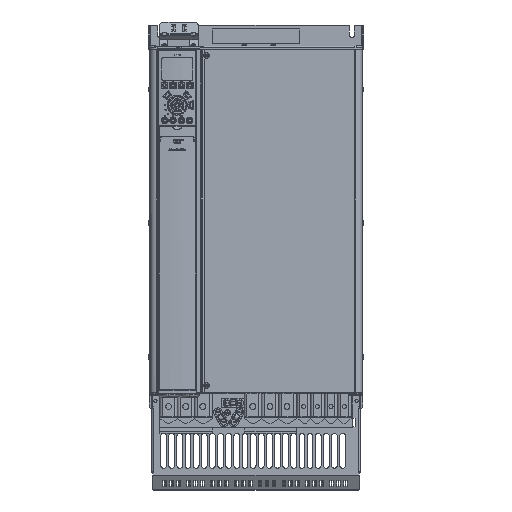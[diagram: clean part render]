
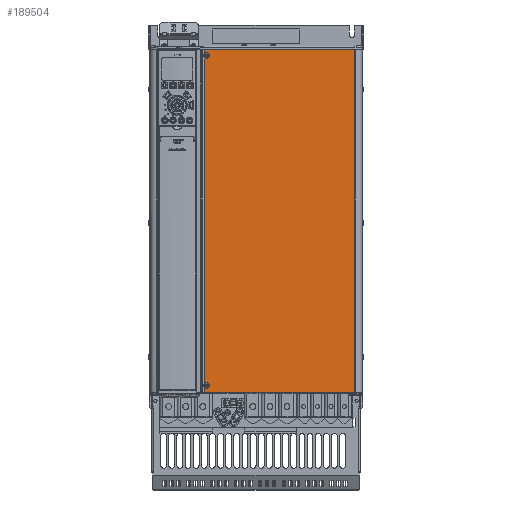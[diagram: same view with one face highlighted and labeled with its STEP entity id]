
A CAD part, top view. The second image highlights one B-rep face of the part: STEP entity #189504.
In plain terms, the highlighted planar face has unit normal (0, 0, 1).
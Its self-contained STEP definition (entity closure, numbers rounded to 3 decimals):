
#21256=DIRECTION('',(1.,0.,0.));
#21257=VECTOR('',#21256,257.671);
#21258=CARTESIAN_POINT('',(-88.56,293.55,325.8));
#21259=LINE('',#21258,#21257);
#43043=DIRECTION('',(1.,0.,0.));
#43044=VECTOR('',#43043,250.452);
#43045=CARTESIAN_POINT('',(-88.56,-295.5,325.8));
#43046=LINE('',#43045,#43044);
#43052=DIRECTION('',(1.,0.,0.));
#43053=VECTOR('',#43052,1.003);
#43054=CARTESIAN_POINT('',(168.108,-295.5,325.8));
#43055=LINE('',#43054,#43053);
#43108=CARTESIAN_POINT('',(-88.56,-281.231,325.8));
#43332=CARTESIAN_POINT('',(-88.56,-286.569,325.8));
#43338=CARTESIAN_POINT('',(-88.56,286.569,325.8));
#43562=CARTESIAN_POINT('',(-88.56,281.231,325.8));
#43564=CARTESIAN_POINT('',(-85.,-283.9,325.8));
#43565=DIRECTION('',(0.,0.,-1.));
#43566=DIRECTION('',(-0.8,0.6,0.));
#43567=AXIS2_PLACEMENT_3D('',#43564,#43565,#43566);
#43579=DIRECTION('',(0.,-1.,0.));
#43580=VECTOR('',#43579,562.461);
#43581=CARTESIAN_POINT('',(-88.56,281.231,325.8));
#43582=LINE('',#43581,#43580);
#43583=CARTESIAN_POINT('',(-85.,286.1,325.8));
#43584=DIRECTION('',(0.,0.,1.));
#43585=DIRECTION('',(0.49,0.871,0.));
#43586=AXIS2_PLACEMENT_3D('',#43583,#43584,#43585);
#43588=CARTESIAN_POINT('',(-85.,283.9,325.8));
#43589=DIRECTION('',(0.,0.,-1.));
#43590=DIRECTION('',(-0.8,0.6,0.));
#43591=AXIS2_PLACEMENT_3D('',#43588,#43589,#43590);
#43593=DIRECTION('',(0.,-1.,0.));
#43594=VECTOR('',#43593,6.981);
#43595=CARTESIAN_POINT('',(-88.56,293.55,325.8));
#43596=LINE('',#43595,#43594);
#43597=CARTESIAN_POINT('',(168.108,-295.5,325.8));
#43598=CARTESIAN_POINT('',(168.084,-295.498,325.8));
#43599=CARTESIAN_POINT('',(168.036,-295.493,325.8));
#43600=CARTESIAN_POINT('',(167.965,-295.486,325.8));
#43601=CARTESIAN_POINT('',(167.894,-295.481,325.8));
#43602=CARTESIAN_POINT('',(167.824,-295.475,325.8));
#43603=CARTESIAN_POINT('',(167.754,-295.471,325.8));
#43604=CARTESIAN_POINT('',(167.685,-295.467,325.8));
#43605=CARTESIAN_POINT('',(167.616,-295.463,325.8));
#43606=CARTESIAN_POINT('',(167.548,-295.46,325.8));
#43607=CARTESIAN_POINT('',(167.48,-295.458,325.8));
#43608=CARTESIAN_POINT('',(167.412,-295.455,325.8));
#43609=CARTESIAN_POINT('',(167.345,-295.454,325.8));
#43610=CARTESIAN_POINT('',(167.277,-295.452,325.8));
#43611=CARTESIAN_POINT('',(167.211,-295.451,325.8));
#43612=CARTESIAN_POINT('',(167.144,-295.451,325.8));
#43613=CARTESIAN_POINT('',(167.077,-295.45,325.8));
#43614=CARTESIAN_POINT('',(167.033,-295.45,325.8));
#43615=CARTESIAN_POINT('',(167.011,-295.45,325.8));
#43617=DIRECTION('',(-1.,0.,0.));
#43618=VECTOR('',#43617,4.022);
#43619=CARTESIAN_POINT('',(167.011,-295.45,325.8));
#43620=LINE('',#43619,#43618);
#43621=CARTESIAN_POINT('',(162.989,-295.45,325.8));
#43622=CARTESIAN_POINT('',(162.967,-295.45,325.8));
#43623=CARTESIAN_POINT('',(162.923,-295.45,325.8));
#43624=CARTESIAN_POINT('',(162.856,-295.451,325.8));
#43625=CARTESIAN_POINT('',(162.789,-295.451,325.8));
#43626=CARTESIAN_POINT('',(162.722,-295.452,325.8));
#43627=CARTESIAN_POINT('',(162.655,-295.454,325.8));
#43628=CARTESIAN_POINT('',(162.588,-295.455,325.8));
#43629=CARTESIAN_POINT('',(162.52,-295.458,325.8));
#43630=CARTESIAN_POINT('',(162.452,-295.46,325.8));
#43631=CARTESIAN_POINT('',(162.384,-295.463,325.8));
#43632=CARTESIAN_POINT('',(162.315,-295.467,325.8));
#43633=CARTESIAN_POINT('',(162.246,-295.471,325.8));
#43634=CARTESIAN_POINT('',(162.176,-295.475,325.8));
#43635=CARTESIAN_POINT('',(162.106,-295.481,325.8));
#43636=CARTESIAN_POINT('',(162.035,-295.486,325.8));
#43637=CARTESIAN_POINT('',(161.964,-295.493,325.8));
#43638=CARTESIAN_POINT('',(161.916,-295.498,325.8));
#43639=CARTESIAN_POINT('',(161.892,-295.5,325.8));
#43641=DIRECTION('',(0.,-1.,0.));
#43642=VECTOR('',#43641,8.931);
#43643=CARTESIAN_POINT('',(-88.56,-286.569,325.8));
#43644=LINE('',#43643,#43642);
#43645=CARTESIAN_POINT('',(-85.,-283.9,325.8));
#43646=DIRECTION('',(0.,0.,-1.));
#43647=DIRECTION('',(-0.265,-0.964,0.));
#43648=AXIS2_PLACEMENT_3D('',#43645,#43646,#43647);
#43650=CARTESIAN_POINT('',(-85.,-286.1,325.8));
#43651=DIRECTION('',(0.,0.,1.));
#43652=DIRECTION('',(-0.49,-0.871,0.));
#43653=AXIS2_PLACEMENT_3D('',#43650,#43651,#43652);
#43655=CARTESIAN_POINT('',(-85.,283.9,325.8));
#43656=DIRECTION('',(0.,0.,-1.));
#43657=DIRECTION('',(0.265,0.964,0.));
#43658=AXIS2_PLACEMENT_3D('',#43655,#43656,#43657);
#44868=DIRECTION('',(0.,-1.,0.));
#44869=VECTOR('',#44868,589.05);
#44870=CARTESIAN_POINT('',(169.111,293.55,325.8));
#44871=LINE('',#44870,#44869);
#121458=CARTESIAN_POINT('',(169.111,-295.5,325.8));
#121460=VERTEX_POINT('',#121458);
#121474=CARTESIAN_POINT('',(-88.56,-295.5,325.8));
#121475=VERTEX_POINT('',#121474);
#121477=CARTESIAN_POINT('',(169.111,293.55,325.8));
#121479=VERTEX_POINT('',#121477);
#121482=CARTESIAN_POINT('',(-88.56,293.55,325.8));
#121484=VERTEX_POINT('',#121482);
#129688=CARTESIAN_POINT('',(167.011,-295.45,325.8));
#129689=CARTESIAN_POINT('',(162.989,-295.45,325.8));
#129690=VERTEX_POINT('',#129688);
#129691=VERTEX_POINT('',#129689);
#129692=VERTEX_POINT('',#43639);
#129693=VERTEX_POINT('',#43597);
#135704=VERTEX_POINT('',#43338);
#135708=VERTEX_POINT('',#43562);
#135709=CARTESIAN_POINT('',(-86.177,288.191,325.8));
#135710=VERTEX_POINT('',#135709);
#135727=CARTESIAN_POINT('',(-83.823,288.191,325.8));
#135728=VERTEX_POINT('',#135727);
#135852=VERTEX_POINT('',#43108);
#135856=VERTEX_POINT('',#43332);
#135857=CARTESIAN_POINT('',(-86.177,-288.191,325.8));
#135858=VERTEX_POINT('',#135857);
#135873=CARTESIAN_POINT('',(-83.823,-288.191,325.8));
#135874=VERTEX_POINT('',#135873);
#189473=CARTESIAN_POINT('',(-88.56,295.5,325.8));
#189474=DIRECTION('',(0.,0.,-1.));
#189475=DIRECTION('',(1.,0.,0.));
#189476=AXIS2_PLACEMENT_3D('',#189473,#189474,#189475);
#189477=PLANE('',#189476);
#189478=ORIENTED_EDGE('',*,*,#189458,.F.);
#189479=ORIENTED_EDGE('',*,*,#189448,.F.);
#189481=ORIENTED_EDGE('',*,*,#189480,.F.);
#189483=ORIENTED_EDGE('',*,*,#189482,.T.);
#189485=ORIENTED_EDGE('',*,*,#189484,.F.);
#189486=ORIENTED_EDGE('',*,*,#189438,.F.);
#189487=ORIENTED_EDGE('',*,*,#166923,.T.);
#189489=ORIENTED_EDGE('',*,*,#189488,.T.);
#189490=ORIENTED_EDGE('',*,*,#189300,.F.);
#189492=ORIENTED_EDGE('',*,*,#189491,.T.);
#189494=ORIENTED_EDGE('',*,*,#189493,.T.);
#189496=ORIENTED_EDGE('',*,*,#189495,.T.);
#189497=ORIENTED_EDGE('',*,*,#189296,.F.);
#189498=ORIENTED_EDGE('',*,*,#189433,.F.);
#189499=ORIENTED_EDGE('',*,*,#189462,.F.);
#189501=ORIENTED_EDGE('',*,*,#189500,.T.);
#189502=EDGE_LOOP('',(#189478,#189479,#189481,#189483,#189485,#189486,#189487,
#189489,#189490,#189492,#189494,#189496,#189497,#189498,#189499,#189501));
#189503=FACE_OUTER_BOUND('',#189502,.F.);
#189504=ADVANCED_FACE('',(#189503),#189477,.F.);
#43568=CIRCLE('',#43567,4.45);
#43587=CIRCLE('',#43586,2.4);
#43592=CIRCLE('',#43591,4.45);
#43616=B_SPLINE_CURVE_WITH_KNOTS('',3,(#43597,#43598,#43599,#43600,#43601,
#43602,#43603,#43604,#43605,#43606,#43607,#43608,#43609,#43610,#43611,#43612,
#43613,#43614,#43615),.UNSPECIFIED.,.F.,.F.,(4,1,1,1,1,1,1,1,1,1,1,1,1,1,1,1,4),
(0.,0.063,0.125,0.188,0.25,0.313,0.375,0.438,0.5,0.563,
0.625,0.688,0.75,0.813,0.875,0.938,1.),.UNSPECIFIED.);
#43640=B_SPLINE_CURVE_WITH_KNOTS('',3,(#43621,#43622,#43623,#43624,#43625,
#43626,#43627,#43628,#43629,#43630,#43631,#43632,#43633,#43634,#43635,#43636,
#43637,#43638,#43639),.UNSPECIFIED.,.F.,.F.,(4,1,1,1,1,1,1,1,1,1,1,1,1,1,1,1,4),
(0.,0.063,0.125,0.188,0.25,0.313,0.375,0.438,0.5,0.563,
0.625,0.688,0.75,0.813,0.875,0.938,1.),.UNSPECIFIED.);
#43649=CIRCLE('',#43648,4.45);
#43654=CIRCLE('',#43653,2.4);
#43659=CIRCLE('',#43658,4.45);
#166923=EDGE_CURVE('',#121484,#121479,#21259,.T.);
#189296=EDGE_CURVE('',#121475,#129692,#43046,.T.);
#189300=EDGE_CURVE('',#129693,#121460,#43055,.T.);
#189433=EDGE_CURVE('',#135856,#121475,#43644,.T.);
#189438=EDGE_CURVE('',#121484,#135704,#43596,.T.);
#189448=EDGE_CURVE('',#135708,#135852,#43582,.T.);
#189458=EDGE_CURVE('',#135852,#135874,#43568,.T.);
#189462=EDGE_CURVE('',#135858,#135856,#43649,.T.);
#189480=EDGE_CURVE('',#135728,#135708,#43659,.T.);
#189482=EDGE_CURVE('',#135728,#135710,#43587,.T.);
#189484=EDGE_CURVE('',#135704,#135710,#43592,.T.);
#189488=EDGE_CURVE('',#121479,#121460,#44871,.T.);
#189491=EDGE_CURVE('',#129693,#129690,#43616,.T.);
#189493=EDGE_CURVE('',#129690,#129691,#43620,.T.);
#189495=EDGE_CURVE('',#129691,#129692,#43640,.T.);
#189500=EDGE_CURVE('',#135858,#135874,#43654,.T.);
